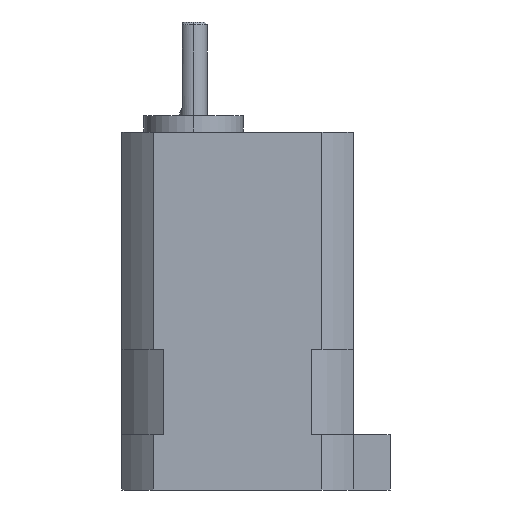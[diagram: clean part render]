
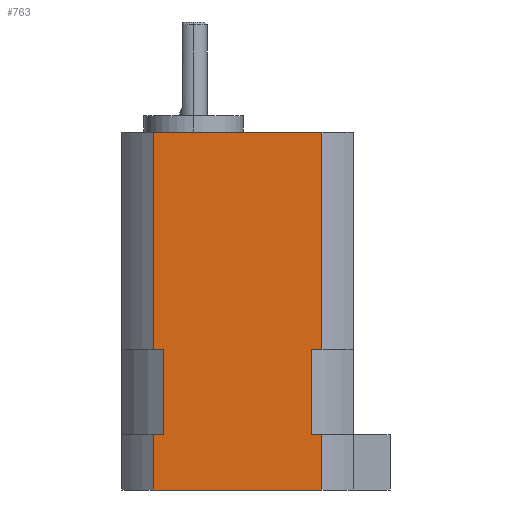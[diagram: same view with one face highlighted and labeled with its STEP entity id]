
A CAD part, left-side view. The second image highlights one B-rep face of the part: STEP entity #763.
In plain terms, the highlighted planar face has unit normal (-1, 0, 0).
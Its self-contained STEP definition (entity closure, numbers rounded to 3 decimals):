
#26 = CARTESIAN_POINT ( 'NONE',  ( -21., 5.379, -39.5 ) ) ;
#28 = VERTEX_POINT ( 'NONE', #669 ) ;
#47 = ORIENTED_EDGE ( 'NONE', *, *, #825, .F. ) ;
#50 = VECTOR ( 'NONE', #1365, 1000. ) ;
#65 = CARTESIAN_POINT ( 'NONE',  ( -21., -23.33, 0. ) ) ;
#95 = VERTEX_POINT ( 'NONE', #177 ) ;
#114 = ORIENTED_EDGE ( 'NONE', *, *, #1444, .F. ) ;
#138 = DIRECTION ( 'NONE',  ( 0., 0., 1. ) ) ;
#164 = CARTESIAN_POINT ( 'NONE',  ( -21., 7.33, -55. ) ) ;
#174 = ORIENTED_EDGE ( 'NONE', *, *, #1065, .T. ) ;
#177 = CARTESIAN_POINT ( 'NONE',  ( -21., 7.33, 0. ) ) ;
#191 = LINE ( 'NONE', #1515, #448 ) ;
#194 = DIRECTION ( 'NONE',  ( 0., 0., 1. ) ) ;
#198 = PLANE ( 'NONE',  #1559 ) ;
#215 = LINE ( 'NONE', #951, #1208 ) ;
#244 = ORIENTED_EDGE ( 'NONE', *, *, #318, .T. ) ;
#273 = LINE ( 'NONE', #755, #1188 ) ;
#286 = ORIENTED_EDGE ( 'NONE', *, *, #1152, .T. ) ;
#295 = VECTOR ( 'NONE', #194, 1000. ) ;
#318 = EDGE_CURVE ( 'NONE', #985, #1291, #705, .T. ) ;
#346 = CARTESIAN_POINT ( 'NONE',  ( -21., -23.33, -55. ) ) ;
#412 = LINE ( 'NONE', #1706, #1301 ) ;
#441 = EDGE_CURVE ( 'NONE', #1357, #1476, #841, .T. ) ;
#442 = VECTOR ( 'NONE', #1029, 1000. ) ;
#448 = VECTOR ( 'NONE', #457, 1000. ) ;
#457 = DIRECTION ( 'NONE',  ( 0., 1., 0. ) ) ;
#499 = VERTEX_POINT ( 'NONE', #1657 ) ;
#535 = CARTESIAN_POINT ( 'NONE',  ( -21., -23.33, -39.5 ) ) ;
#541 = ORIENTED_EDGE ( 'NONE', *, *, #441, .F. ) ;
#596 = LINE ( 'NONE', #1522, #295 ) ;
#661 = CARTESIAN_POINT ( 'NONE',  ( -21., -21.379, -39.5 ) ) ;
#662 = EDGE_LOOP ( 'NONE', ( #1179, #1642, #114, #47, #286, #541, #1051, #244, #174, #1247, #936, #703 ) ) ;
#668 = DIRECTION ( 'NONE',  ( 0., 1., 0. ) ) ;
#669 = CARTESIAN_POINT ( 'NONE',  ( -21., 5.379, -55. ) ) ;
#703 = ORIENTED_EDGE ( 'NONE', *, *, #1102, .T. ) ;
#705 = LINE ( 'NONE', #1641, #793 ) ;
#755 = CARTESIAN_POINT ( 'NONE',  ( -21., 0., -55. ) ) ;
#763 = ADVANCED_FACE ( 'NONE', ( #1534 ), #198, .F. ) ;
#771 = DIRECTION ( 'NONE',  ( 0., 1., 0. ) ) ;
#780 = CARTESIAN_POINT ( 'NONE',  ( -21., 7.33, -32.2 ) ) ;
#793 = VECTOR ( 'NONE', #1381, 1000. ) ;
#825 = EDGE_CURVE ( 'NONE', #28, #1426, #596, .T. ) ;
#841 = LINE ( 'NONE', #1009, #442 ) ;
#842 = CARTESIAN_POINT ( 'NONE',  ( -21., 0., -32.2 ) ) ;
#887 = CARTESIAN_POINT ( 'NONE',  ( -21., -23.33, -32.2 ) ) ;
#897 = LINE ( 'NONE', #1597, #1298 ) ;
#929 = EDGE_CURVE ( 'NONE', #1332, #95, #1254, .T. ) ;
#936 = ORIENTED_EDGE ( 'NONE', *, *, #1466, .F. ) ;
#945 = VECTOR ( 'NONE', #1562, 1000. ) ;
#951 = CARTESIAN_POINT ( 'NONE',  ( -21., -23.33, -39.5 ) ) ;
#985 = VERTEX_POINT ( 'NONE', #1149 ) ;
#1009 = CARTESIAN_POINT ( 'NONE',  ( -21., 7.33, -65. ) ) ;
#1029 = DIRECTION ( 'NONE',  ( 0., 0., 1. ) ) ;
#1041 = VERTEX_POINT ( 'NONE', #65 ) ;
#1051 = ORIENTED_EDGE ( 'NONE', *, *, #1504, .F. ) ;
#1065 = EDGE_CURVE ( 'NONE', #1291, #499, #1634, .T. ) ;
#1087 = EDGE_CURVE ( 'NONE', #1041, #95, #191, .T. ) ;
#1102 = EDGE_CURVE ( 'NONE', #1564, #1041, #1108, .T. ) ;
#1108 = LINE ( 'NONE', #887, #945 ) ;
#1129 = VECTOR ( 'NONE', #1140, 1000. ) ;
#1140 = DIRECTION ( 'NONE',  ( 0., 1., 0. ) ) ;
#1149 = CARTESIAN_POINT ( 'NONE',  ( -21., -23.33, -65. ) ) ;
#1152 = EDGE_CURVE ( 'NONE', #28, #1476, #273, .T. ) ;
#1154 = CARTESIAN_POINT ( 'NONE',  ( -21., 0., -55. ) ) ;
#1179 = ORIENTED_EDGE ( 'NONE', *, *, #1087, .T. ) ;
#1180 = EDGE_CURVE ( 'NONE', #499, #1428, #412, .T. ) ;
#1188 = VECTOR ( 'NONE', #771, 1000. ) ;
#1194 = DIRECTION ( 'NONE',  ( 0., 0., 1. ) ) ;
#1208 = VECTOR ( 'NONE', #1209, 1000. ) ;
#1209 = DIRECTION ( 'NONE',  ( 0., 1., 0. ) ) ;
#1223 = LINE ( 'NONE', #1617, #50 ) ;
#1224 = VECTOR ( 'NONE', #138, 1000. ) ;
#1243 = DIRECTION ( 'NONE',  ( 0., 0., -1. ) ) ;
#1247 = ORIENTED_EDGE ( 'NONE', *, *, #1180, .T. ) ;
#1254 = LINE ( 'NONE', #780, #1224 ) ;
#1276 = CARTESIAN_POINT ( 'NONE',  ( -21., 7.33, -39.5 ) ) ;
#1291 = VERTEX_POINT ( 'NONE', #346 ) ;
#1298 = VECTOR ( 'NONE', #668, 1000. ) ;
#1301 = VECTOR ( 'NONE', #1194, 1000. ) ;
#1332 = VERTEX_POINT ( 'NONE', #1276 ) ;
#1357 = VERTEX_POINT ( 'NONE', #1567 ) ;
#1365 = DIRECTION ( 'NONE',  ( 0., 1., 0. ) ) ;
#1381 = DIRECTION ( 'NONE',  ( 0., 0., 1. ) ) ;
#1426 = VERTEX_POINT ( 'NONE', #26 ) ;
#1428 = VERTEX_POINT ( 'NONE', #661 ) ;
#1444 = EDGE_CURVE ( 'NONE', #1426, #1332, #897, .T. ) ;
#1466 = EDGE_CURVE ( 'NONE', #1564, #1428, #215, .T. ) ;
#1476 = VERTEX_POINT ( 'NONE', #164 ) ;
#1504 = EDGE_CURVE ( 'NONE', #985, #1357, #1223, .T. ) ;
#1515 = CARTESIAN_POINT ( 'NONE',  ( -21., 0., 0. ) ) ;
#1517 = DIRECTION ( 'NONE',  ( 1., 0., 0. ) ) ;
#1522 = CARTESIAN_POINT ( 'NONE',  ( -21., 5.379, -55. ) ) ;
#1534 = FACE_OUTER_BOUND ( 'NONE', #662, .T. ) ;
#1559 = AXIS2_PLACEMENT_3D ( 'NONE', #842, #1517, #1243 ) ;
#1562 = DIRECTION ( 'NONE',  ( 0., 0., 1. ) ) ;
#1564 = VERTEX_POINT ( 'NONE', #535 ) ;
#1567 = CARTESIAN_POINT ( 'NONE',  ( -21., 7.33, -65. ) ) ;
#1597 = CARTESIAN_POINT ( 'NONE',  ( -21., -23.33, -39.5 ) ) ;
#1617 = CARTESIAN_POINT ( 'NONE',  ( -21., 0., -65. ) ) ;
#1634 = LINE ( 'NONE', #1154, #1129 ) ;
#1641 = CARTESIAN_POINT ( 'NONE',  ( -21., -23.33, -65. ) ) ;
#1642 = ORIENTED_EDGE ( 'NONE', *, *, #929, .F. ) ;
#1657 = CARTESIAN_POINT ( 'NONE',  ( -21., -21.379, -55. ) ) ;
#1706 = CARTESIAN_POINT ( 'NONE',  ( -21., -21.379, -55. ) ) ;
